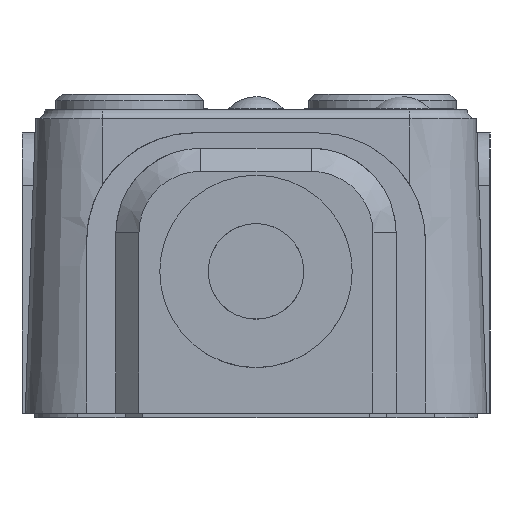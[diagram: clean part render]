
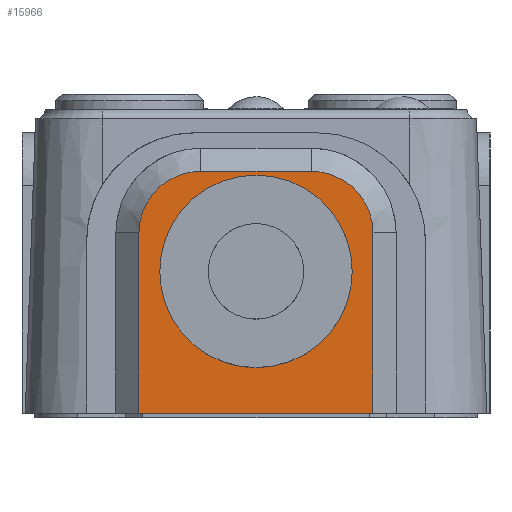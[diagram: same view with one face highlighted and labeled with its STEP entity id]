
A CAD part, left-side view. The second image highlights one B-rep face of the part: STEP entity #15966.
In plain terms, the highlighted planar face has unit normal (-1, 0, 0).
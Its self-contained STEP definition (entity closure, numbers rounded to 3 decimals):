
#2593=LINE('',#69344,#7625);
#2646=LINE('',#69805,#7678);
#2647=LINE('',#69809,#7679);
#2648=LINE('',#69813,#7680);
#7625=VECTOR('',#54519,1.);
#7678=VECTOR('',#54700,1.);
#7679=VECTOR('',#54705,1.);
#7680=VECTOR('',#54708,1.);
#13744=PLANE('',#48988);
#15966=ADVANCED_FACE('',(#18962,#18963),#13744,.T.);
#18962=FACE_BOUND('',#20478,.T.);
#18963=FACE_BOUND('',#20479,.T.);
#20478=EDGE_LOOP('',(#25930,#25931,#25932,#25933,#25934,#25935));
#20479=EDGE_LOOP('',(#25936));
#25930=ORIENTED_EDGE('',*,*,#42938,.T.);
#25931=ORIENTED_EDGE('',*,*,#42939,.T.);
#25932=ORIENTED_EDGE('',*,*,#42940,.T.);
#25933=ORIENTED_EDGE('',*,*,#42941,.T.);
#25934=ORIENTED_EDGE('',*,*,#42942,.T.);
#25935=ORIENTED_EDGE('',*,*,#42839,.F.);
#25936=ORIENTED_EDGE('',*,*,#42943,.F.);
#38103=VERTEX_POINT('',#69343);
#38104=VERTEX_POINT('',#69345);
#38165=VERTEX_POINT('',#69804);
#38166=VERTEX_POINT('',#69808);
#38167=VERTEX_POINT('',#69810);
#38168=VERTEX_POINT('',#69812);
#38169=VERTEX_POINT('',#69815);
#42839=EDGE_CURVE('',#38103,#38104,#2593,.T.);
#42938=EDGE_CURVE('',#38103,#38165,#2646,.T.);
#42939=EDGE_CURVE('',#38165,#38166,#47738,.T.);
#42940=EDGE_CURVE('',#38166,#38167,#2647,.T.);
#42941=EDGE_CURVE('',#38167,#38168,#47739,.T.);
#42942=EDGE_CURVE('',#38168,#38104,#2648,.T.);
#42943=EDGE_CURVE('',#38169,#38169,#47740,.T.);
#47738=CIRCLE('',#48985,4.);
#47739=CIRCLE('',#48986,4.);
#47740=CIRCLE('',#48987,6.25);
#48985=AXIS2_PLACEMENT_3D('',#69807,#54703,#54704);
#48986=AXIS2_PLACEMENT_3D('',#69811,#54706,#54707);
#48987=AXIS2_PLACEMENT_3D('',#69814,#54709,#54710);
#48988=AXIS2_PLACEMENT_3D('',#69816,#54711,#54712);
#54519=DIRECTION('',(0.,1.,0.));
#54700=DIRECTION('',(0.,0.,1.));
#54703=DIRECTION('',(-1.,0.,0.));
#54704=DIRECTION('',(0.,-1.,0.));
#54705=DIRECTION('',(0.,1.,0.));
#54706=DIRECTION('',(-1.,0.,0.));
#54707=DIRECTION('',(0.,0.,1.));
#54708=DIRECTION('',(0.,0.,-1.));
#54709=DIRECTION('',(-1.,0.,0.));
#54710=DIRECTION('',(0.,-1.,0.));
#54711=DIRECTION('',(-1.,0.,0.));
#54712=DIRECTION('',(0.,0.,1.));
#69343=CARTESIAN_POINT('',(-14.5,-7.6,-19.7));
#69344=CARTESIAN_POINT('',(-14.5,-7.6,-19.7));
#69345=CARTESIAN_POINT('',(-14.5,7.6,-19.7));
#69804=CARTESIAN_POINT('',(-14.5,-7.6,-8.));
#69805=CARTESIAN_POINT('',(-14.5,-7.6,-19.7));
#69807=CARTESIAN_POINT('',(-14.5,-3.6,-8.));
#69808=CARTESIAN_POINT('',(-14.5,-3.6,-4.));
#69809=CARTESIAN_POINT('',(-14.5,-3.6,-4.));
#69810=CARTESIAN_POINT('',(-14.5,3.6,-4.));
#69811=CARTESIAN_POINT('',(-14.5,3.6,-8.));
#69812=CARTESIAN_POINT('',(-14.5,7.6,-8.));
#69813=CARTESIAN_POINT('',(-14.5,7.6,-8.));
#69814=CARTESIAN_POINT('',(-14.5,0.,-10.5));
#69815=CARTESIAN_POINT('',(-14.5,-6.25,-10.5));
#69816=CARTESIAN_POINT('',(-14.5,-1.,-20.));
